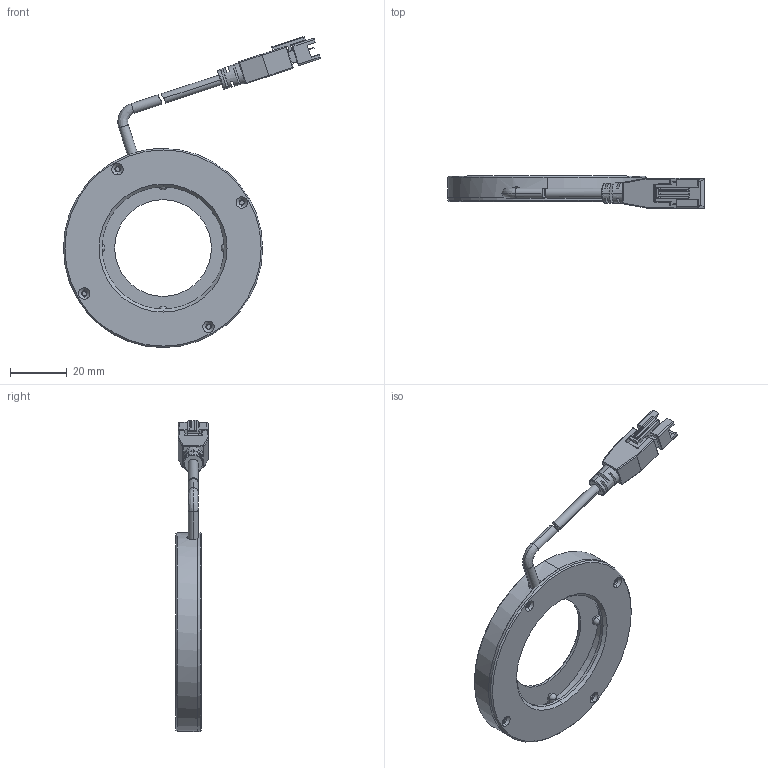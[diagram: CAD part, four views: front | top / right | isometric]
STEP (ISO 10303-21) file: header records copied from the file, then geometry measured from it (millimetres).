
FILE_DESCRIPTION (( 'STEP AP203' ), '1' );
FILE_NAME ('CRT-RL7000-¼òÒ×3DÍ¼.STEP', '2021-12-16T05:51:44', ( 'Admin' ), ( '' ), 'SwSTEP 2.0', 'SolidWorks 2018', '' );
FILE_SCHEMA (( 'CONFIG_CONTROL_DESIGN' ));
Length unit declared in the file: millimetre
Products named in the file (1): CRT-RL7000-潠眢3D芞
Bounding box: 90.35 x 11.35 x 109.41 mm (x, y, z)
Surface area: 15930.2 mm2 (no closed solid volume)
Topology: 0 solids, 9 shells, 278 faces, 773 edges, 487 vertices
Faces by surface type: plane 121, cylinder 102, bspline 25, cone 18, torus 12
Entity records: 9886 total; most frequent: CARTESIAN_POINT 2854, DIRECTION 1471, ORIENTED_EDGE 1388, EDGE_CURVE 753, AXIS2_PLACEMENT_3D 528, VERTEX_POINT 487, VECTOR 415, LINE 415
